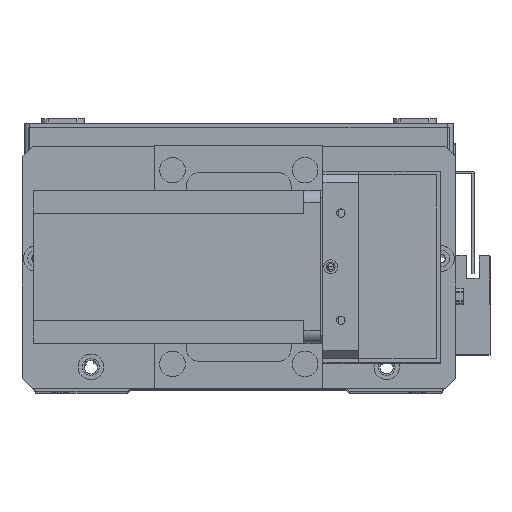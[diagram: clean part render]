
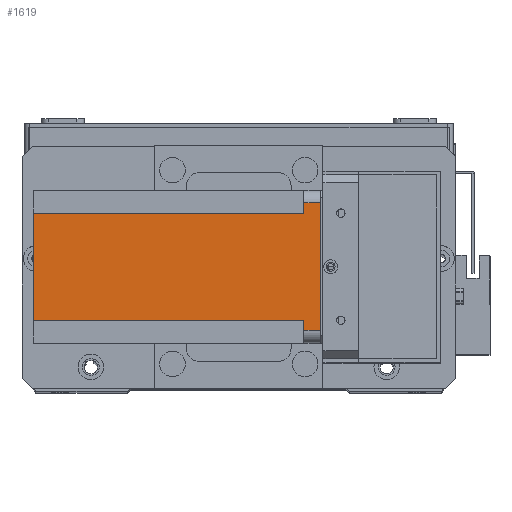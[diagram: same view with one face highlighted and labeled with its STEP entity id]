
A CAD part, top view. The second image highlights one B-rep face of the part: STEP entity #1619.
In plain terms, the highlighted planar face has unit normal (0, 0, 1) as drawn and (-1, 0, 0) by its records, which use the part's own axes.
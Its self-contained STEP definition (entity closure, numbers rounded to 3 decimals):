
#228 = CARTESIAN_POINT ( 'NONE',  ( 0., 9., -6.5 ) ) ;
#387 = LINE ( 'NONE', #11031, #5772 ) ;
#885 = EDGE_CURVE ( 'NONE', #5878, #9975, #24087, .T. ) ;
#1619 = ADVANCED_FACE ( 'NONE', ( #17082 ), #14995, .T. ) ;
#2026 = EDGE_CURVE ( 'NONE', #10263, #4255, #13175, .T. ) ;
#2342 = VERTEX_POINT ( 'NONE', #2758 ) ;
#2464 = VECTOR ( 'NONE', #10438, 1000. ) ;
#2758 = CARTESIAN_POINT ( 'NONE',  ( 0., 51., -112.5 ) ) ;
#2846 = VERTEX_POINT ( 'NONE', #18535 ) ;
#3260 = DIRECTION ( 'NONE',  ( 0., 0., 1. ) ) ;
#4255 = VERTEX_POINT ( 'NONE', #228 ) ;
#5397 = VECTOR ( 'NONE', #10084, 1000. ) ;
#5772 = VECTOR ( 'NONE', #20567, 1000. ) ;
#5878 = VERTEX_POINT ( 'NONE', #7802 ) ;
#5985 = LINE ( 'NONE', #22087, #29330 ) ;
#6168 = VECTOR ( 'NONE', #20111, 1000. ) ;
#6652 = VECTOR ( 'NONE', #11069, 1000. ) ;
#7802 = CARTESIAN_POINT ( 'NONE',  ( 0., 55., 0. ) ) ;
#9975 = VERTEX_POINT ( 'NONE', #24469 ) ;
#10075 = ORIENTED_EDGE ( 'NONE', *, *, #29726, .F. ) ;
#10084 = DIRECTION ( 'NONE',  ( 0., -1., 0. ) ) ;
#10097 = ORIENTED_EDGE ( 'NONE', *, *, #25910, .T. ) ;
#10263 = VERTEX_POINT ( 'NONE', #11029 ) ;
#10438 = DIRECTION ( 'NONE',  ( 0., 1., 0. ) ) ;
#10531 = CARTESIAN_POINT ( 'NONE',  ( 0., 60., -6.5 ) ) ;
#10614 = CARTESIAN_POINT ( 'NONE',  ( 0., 9., -112.5 ) ) ;
#10698 = ORIENTED_EDGE ( 'NONE', *, *, #29260, .F. ) ;
#10954 = ORIENTED_EDGE ( 'NONE', *, *, #15930, .F. ) ;
#11029 = CARTESIAN_POINT ( 'NONE',  ( 0., 5., -6.5 ) ) ;
#11031 = CARTESIAN_POINT ( 'NONE',  ( 0., 51., -112.5 ) ) ;
#11039 = ORIENTED_EDGE ( 'NONE', *, *, #885, .T. ) ;
#11069 = DIRECTION ( 'NONE',  ( 0., -1., 0. ) ) ;
#11095 = ORIENTED_EDGE ( 'NONE', *, *, #30131, .F. ) ;
#11493 = LINE ( 'NONE', #24346, #5397 ) ;
#11632 = ORIENTED_EDGE ( 'NONE', *, *, #25271, .T. ) ;
#11892 = ORIENTED_EDGE ( 'NONE', *, *, #2026, .F. ) ;
#12852 = VECTOR ( 'NONE', #28364, 1000. ) ;
#12857 = DIRECTION ( 'NONE',  ( 0., -1., 0. ) ) ;
#12896 = DIRECTION ( 'NONE',  ( -1., 0., 0. ) ) ;
#12969 = LINE ( 'NONE', #10614, #6168 ) ;
#13175 = LINE ( 'NONE', #28267, #12852 ) ;
#13612 = EDGE_LOOP ( 'NONE', ( #11892, #11632, #11095, #11039, #10954, #10698, #10097, #10075 ) ) ;
#13643 = CARTESIAN_POINT ( 'NONE',  ( 0., 0., -112.5 ) ) ;
#14357 = CARTESIAN_POINT ( 'NONE',  ( 0., 9., -112.5 ) ) ;
#14995 = PLANE ( 'NONE',  #20844 ) ;
#15357 = DIRECTION ( 'NONE',  ( 0., 0., -1. ) ) ;
#15930 = EDGE_CURVE ( 'NONE', #21381, #9975, #27312, .T. ) ;
#17082 = FACE_OUTER_BOUND ( 'NONE', #13612, .T. ) ;
#17586 = CARTESIAN_POINT ( 'NONE',  ( 0., 55., -112.5 ) ) ;
#18535 = CARTESIAN_POINT ( 'NONE',  ( 0., 5., 0. ) ) ;
#18609 = VERTEX_POINT ( 'NONE', #14357 ) ;
#19813 = LINE ( 'NONE', #25343, #6652 ) ;
#20111 = DIRECTION ( 'NONE',  ( 0., 0., -1. ) ) ;
#20567 = DIRECTION ( 'NONE',  ( 0., 0., 1. ) ) ;
#20844 = AXIS2_PLACEMENT_3D ( 'NONE', #13643, #12896, #12857 ) ;
#21381 = VERTEX_POINT ( 'NONE', #27577 ) ;
#22087 = CARTESIAN_POINT ( 'NONE',  ( 0., 5., -112.5 ) ) ;
#24024 = VECTOR ( 'NONE', #15357, 1000. ) ;
#24087 = LINE ( 'NONE', #17586, #24024 ) ;
#24346 = CARTESIAN_POINT ( 'NONE',  ( 0., 0., 0. ) ) ;
#24469 = CARTESIAN_POINT ( 'NONE',  ( 0., 55., -6.5 ) ) ;
#25271 = EDGE_CURVE ( 'NONE', #10263, #2846, #5985, .T. ) ;
#25343 = CARTESIAN_POINT ( 'NONE',  ( 0., 0., -112.5 ) ) ;
#25910 = EDGE_CURVE ( 'NONE', #2342, #18609, #19813, .T. ) ;
#27312 = LINE ( 'NONE', #10531, #2464 ) ;
#27577 = CARTESIAN_POINT ( 'NONE',  ( 0., 51., -6.5 ) ) ;
#28267 = CARTESIAN_POINT ( 'NONE',  ( 0., 0., -6.5 ) ) ;
#28364 = DIRECTION ( 'NONE',  ( 0., 1., 0. ) ) ;
#29260 = EDGE_CURVE ( 'NONE', #2342, #21381, #387, .T. ) ;
#29330 = VECTOR ( 'NONE', #3260, 1000. ) ;
#29726 = EDGE_CURVE ( 'NONE', #4255, #18609, #12969, .T. ) ;
#30131 = EDGE_CURVE ( 'NONE', #5878, #2846, #11493, .T. ) ;
